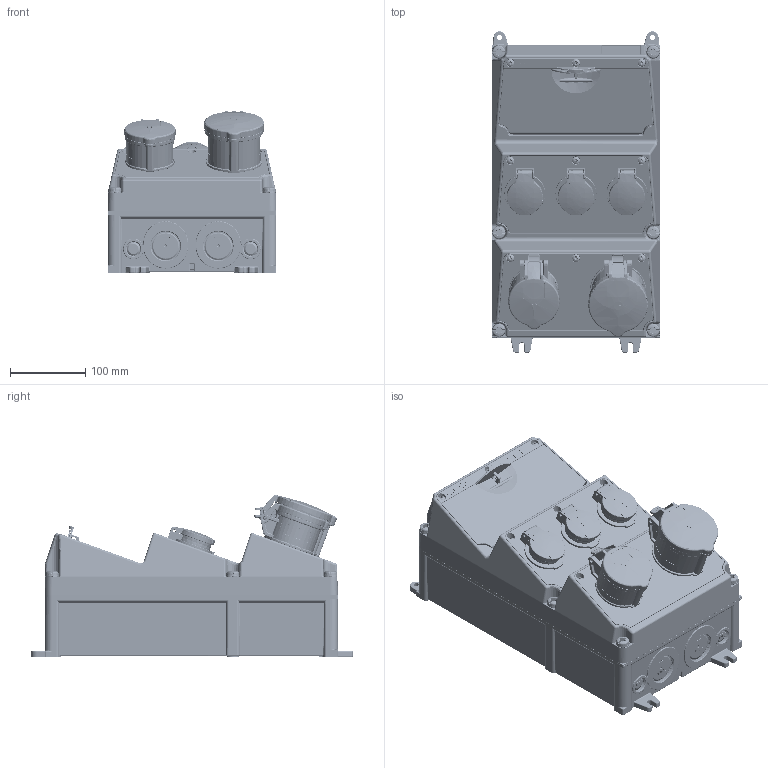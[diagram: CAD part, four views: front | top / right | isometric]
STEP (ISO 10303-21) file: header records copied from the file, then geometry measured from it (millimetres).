
FILE_DESCRIPTION((''),'2;1');
FILE_NAME('930006-3_ASM_1_ASM','2018-05-07T',('weltickej'),('MENNEKES'),'PRO/ENGINEER BY PARAMETRIC TECHNOLOGY CORPORATION, 2015440','PRO/ENGINEER BY PARAMETRIC TECHNOLOGY CORPORATION, 2015440','');
FILE_SCHEMA(('AUTOMOTIVE_DESIGN { 1 0 10303 214 1 1 1 1 }'));
Products named in the file (10): 3-4_SW_O_GRAU_1; MP_FEN10_44_OBEN_GRAU_1; MP_LEER_GRAU_1; LS_3POL_3TE_1; LS_1POL_1TE_1; BAUTEIL_DUMMY__1; AMAXX_CEE_32_5_44_ROT_1; AMAXX_CEE_16_5_44_ROT_1; AMAXX_SCHUKO_44_BLAU_1; 930006-3_ASM_1_ASM
Assembly tree (14 placements, depth 2):
  930006-3_ASM_1_ASM
    3-4_SW_O_GRAU_1
    MP_FEN10_44_OBEN_GRAU_1
    MP_LEER_GRAU_1  x2
    LS_3POL_3TE_1
    LS_1POL_1TE_1  x3
    BAUTEIL_DUMMY__1
    AMAXX_CEE_32_5_44_ROT_1
    AMAXX_CEE_16_5_44_ROT_1
    AMAXX_SCHUKO_44_BLAU_1  x3
Bounding box: 225 x 428.2 x 215.76 mm (x, y, z)
Volume: 9086551.7 mm3; surface area: 1036702.2 mm2
Topology: 13 solids, 13 shells, 11314 faces, 31134 edges, 19916 vertices
Faces by surface type: plane 5315, cylinder 3037, bspline 1082, torus 1051, cone 321, sphere 286, extrusion 222
Entity records: 419596 total; most frequent: CARTESIAN_POINT 129561, ORIENTED_EDGE 50442, DIRECTION 44259, EDGE_CURVE 25221, VERTEX_POINT 16101, AXIS2_PLACEMENT_3D 15575, VECTOR 13109, LINE 12961
